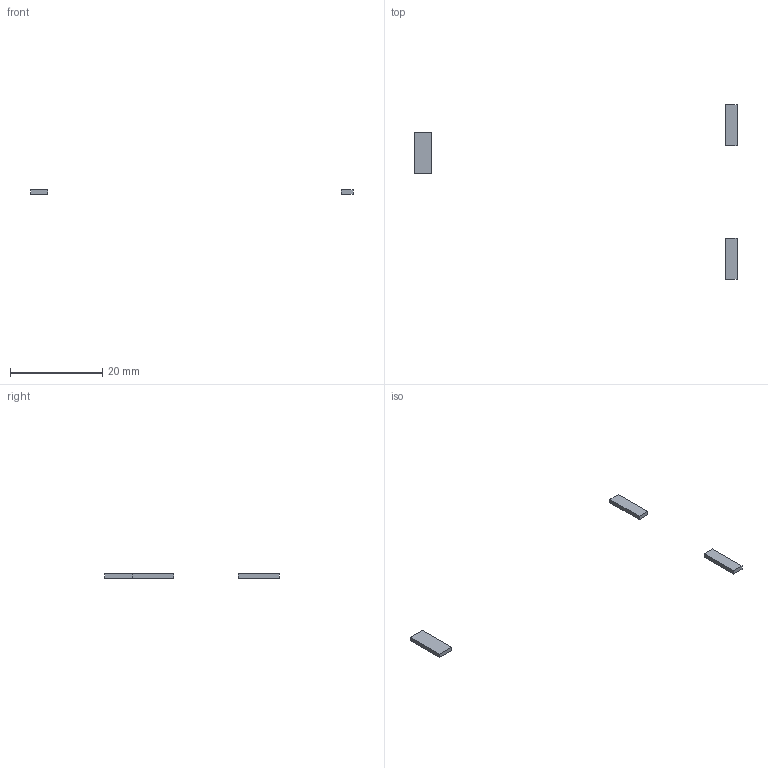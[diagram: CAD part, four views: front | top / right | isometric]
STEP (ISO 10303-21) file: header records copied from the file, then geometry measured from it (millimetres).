
FILE_DESCRIPTION(('Open CASCADE Model'),'2;1');
FILE_NAME('Open CASCADE Shape Model','2026-09-15T13:16:09',('Author'),( 'Open CASCADE'),'Open CASCADE STEP processor 7.7','Open CASCADE 7.7' ,'Unknown');
FILE_SCHEMA(('AUTOMOTIVE_DESIGN { 1 0 10303 214 1 1 1 1 }'));
Length unit declared in the file: millimetre
Products named in the file (4): ASSEMBLY; SOLID
Assembly tree (3 placements, depth 2):
  ASSEMBLY
    SOLID
    SOLID
    SOLID
Bounding box: 70 x 38 x 0.9 mm (x, y, z)
Volume: 72.1 mm3; surface area: 224.8 mm2
Topology: 3 solids, 3 shells, 18 faces, 36 edges, 24 vertices
Faces by surface type: plane 18
Entity records: 988 total; most frequent: CARTESIAN_POINT 154, DIRECTION 152, LINE 108, VECTOR 108, ORIENTED_EDGE 72, PCURVE 72, DEFINITIONAL_REPRESENTATION 72, EDGE_CURVE 36
